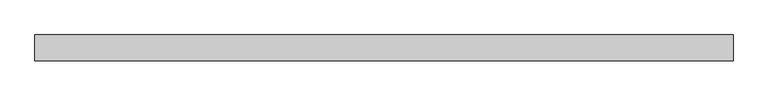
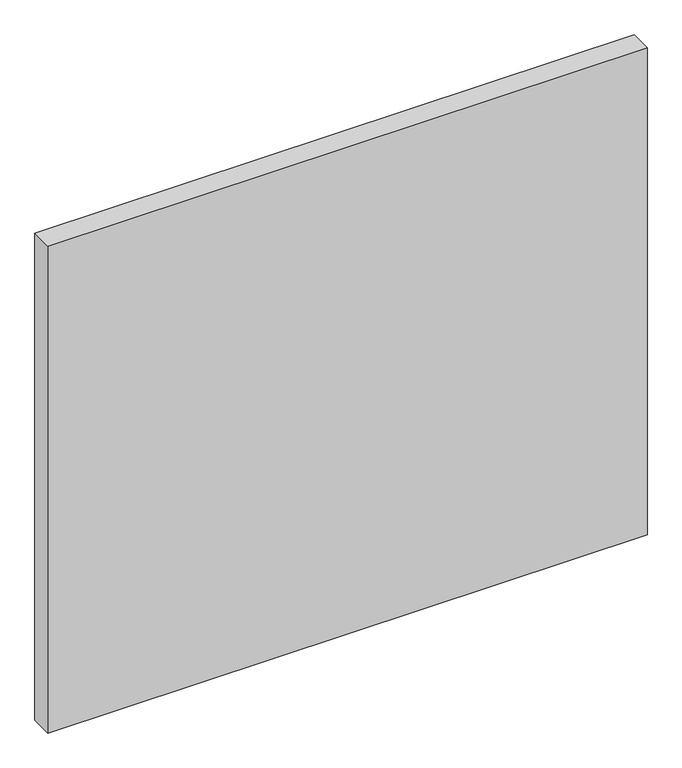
"""IFC4 building model written with IfcOpenShell, lengths in millimetres: plate geometry, Panneau système : Vitré."""

import ifcopenshell
import ifcopenshell.guid

model = None  # the IFC model being written
_history = None  # IfcOwnerHistory: only IFC2X3 demands one
_inside = {}  # id of a spatial element -> (the spatial element, [elements in it])
_under = {}  # id of a project, library or spatial element -> (it, [spatial elements below it])
_declared = {}  # id of a project -> (the project, [libraries it declares])
_typed = {}  # id of a type object -> (the type object, [elements of that type])
_made_of = {}  # id of a material, layer set ... -> (it, [elements and type objects made of it])


def new_model(schema):
    """Start an empty IFC model of exactly this schema.

    Asked for "IFC4X3", IfcOpenShell would pick the latest addendum, in which some entities
    have other attributes; the version numbers below select the first issue.
    IFC2X3 requires an IfcOwnerHistory on every rooted entity: one is made here for all.
    """
    global model, _history
    if schema == "IFC4X3":
        model = ifcopenshell.file(schema_version=(4, 3, 0, 0))
    else:
        model = ifcopenshell.file(schema=schema)
    _inside.clear()
    _under.clear()
    _declared.clear()
    _typed.clear()
    _made_of.clear()
    _history = None
    if model.schema == "IFC2X3":
        org = make("IfcOrganization", Name="unknown")
        user = make(
            "IfcPersonAndOrganization",
            ThePerson=make("IfcPerson", FamilyName="unknown"),
            TheOrganization=org,
        )
        app = make(
            "IfcApplication",
            ApplicationDeveloper=org,
            Version="unknown",
            ApplicationFullName="unknown",
            ApplicationIdentifier="unknown",
        )
        _history = make(
            "IfcOwnerHistory",
            OwningUser=user,
            OwningApplication=app,
            ChangeAction="ADDED",
            CreationDate=0,
        )
    return model


def make(cls, **values):
    """One entity of the class cls with the attributes given. An attribute that is None is left unset."""
    return model.create_entity(
        cls, **{name: value for name, value in values.items() if value is not None}
    )


def rooted(cls, **values):
    """An entity with a GlobalId (a new one), such as an element, a storey or a relation."""
    return make(cls, GlobalId=ifcopenshell.guid.new(), OwnerHistory=_history, **values)


def si_unit(unit_type, name, prefix=None):
    """IfcSIUnit, for example si_unit("LENGTHUNIT", "METRE", prefix="MILLI")."""
    return make("IfcSIUnit", UnitType=unit_type, Prefix=prefix, Name=name)


def assignment(units):
    """IfcUnitAssignment: the units of a project."""
    return None if units is None else make("IfcUnitAssignment", Units=units)


def point(xyz):
    """IfcCartesianPoint."""
    return None if xyz is None else make("IfcCartesianPoint", Coordinates=xyz)


def direction(xyz):
    """IfcDirection."""
    return None if xyz is None else make("IfcDirection", DirectionRatios=xyz)


def frame(location, z_axis=None, x_axis=None):
    """IfcAxis2Placement3D, a coordinate frame: its origin and axes. An axis left out is left unset."""
    return make(
        "IfcAxis2Placement3D",
        Location=point(location),
        Axis=direction(z_axis),
        RefDirection=direction(x_axis),
    )


def origin():
    """The frame at (0, 0, 0) with its axes left unset."""
    return frame((0.0, 0.0, 0.0))


def origin_with_axes():
    """The frame at (0, 0, 0) with the z axis (0, 0, 1) and the x axis (1, 0, 0) written out."""
    return frame((0.0, 0.0, 0.0), z_axis=(0.0, 0.0, 1.0), x_axis=(1.0, 0.0, 0.0))


def place(relative_to, where):
    """IfcLocalPlacement: puts the frame where relative to a parent placement (None: the world)."""
    return make(
        "IfcLocalPlacement", PlacementRelTo=relative_to, RelativePlacement=where
    )


def context(
    kind, dimensions, precision=None, world=None, true_north=None, identifier=None
):
    """IfcGeometricRepresentationContext, for example the 3D "Model" context."""
    return make(
        "IfcGeometricRepresentationContext",
        ContextIdentifier=identifier,
        ContextType=kind,
        CoordinateSpaceDimension=dimensions,
        Precision=precision,
        WorldCoordinateSystem=world,
        TrueNorth=true_north,
    )


def project(units=None, contexts=None):
    """IfcProject with its units and contexts."""
    return rooted(
        "IfcProject",
        Name="project",
        RepresentationContexts=contexts,
        UnitsInContext=assignment(units),
    )


def spatial(cls, under=None, at=None, **own):
    """A site, building, storey or space (cls), placed at a placement, below another one or the project."""
    s = rooted(cls, ObjectPlacement=at, **own)
    if under is not None:
        _under.setdefault(under.id(), (under, []))[1].append(s)
    return s


def polyline(points):
    """IfcPolyline through the points."""
    return make("IfcPolyline", Points=[point(p) for p in points])


def outline(outer, holes=None, kind="AREA"):
    """IfcArbitraryClosedProfileDef: a profile drawn as a closed curve; with holes, ...WithVoids."""
    if holes is None:
        return make("IfcArbitraryClosedProfileDef", ProfileType=kind, OuterCurve=outer)
    return make(
        "IfcArbitraryProfileDefWithVoids",
        ProfileType=kind,
        OuterCurve=outer,
        InnerCurves=holes,
    )


def extrude(swept, where, along, depth):
    """IfcExtrudedAreaSolid: the profile swept, set in the frame where, extruded along a direction by depth."""
    return make(
        "IfcExtrudedAreaSolid",
        SweptArea=swept,
        Position=where,
        ExtrudedDirection=direction(along),
        Depth=depth,
    )


def shape(context_of_items, identifier, shape_type, items):
    """IfcShapeRepresentation: the items that make up one representation, for example the "Body"."""
    return make(
        "IfcShapeRepresentation",
        ContextOfItems=context_of_items,
        RepresentationIdentifier=identifier,
        RepresentationType=shape_type,
        Items=items,
    )


def source(mapping_origin, context_of_items, identifier, shape_type, items):
    """IfcRepresentationMap: a shape defined once, which mapped items show again and again."""
    return make(
        "IfcRepresentationMap",
        MappingOrigin=mapping_origin,
        MappedRepresentation=shape(context_of_items, identifier, shape_type, items),
    )


def transform(
    local_origin,
    x_axis=None,
    y_axis=None,
    z_axis=None,
    scale=None,
    scale2=None,
    scale3=None,
    uniform=True,
):
    """IfcCartesianTransformationOperator3D, or its non-uniform kind. x_axis, y_axis, z_axis: its Axis1, 2, 3."""
    if uniform:
        return make(
            "IfcCartesianTransformationOperator3D",
            Axis1=direction(x_axis),
            Axis2=direction(y_axis),
            LocalOrigin=point(local_origin),
            Scale=scale,
            Axis3=direction(z_axis),
        )
    return make(
        "IfcCartesianTransformationOperator3DnonUniform",
        Axis1=direction(x_axis),
        Axis2=direction(y_axis),
        LocalOrigin=point(local_origin),
        Scale=scale,
        Axis3=direction(z_axis),
        Scale2=scale2,
        Scale3=scale3,
    )


def mapped(mapping_source, mapping_target):
    """IfcMappedItem: shows the shape of a source again, moved by a transform."""
    return make(
        "IfcMappedItem", MappingSource=mapping_source, MappingTarget=mapping_target
    )


def made_of(thing, what):
    """Note that an element or type object is made of a material, layer set ...; save() writes the relation."""
    if what is not None:
        _made_of.setdefault(what.id(), (what, []))[1].append(thing)
    return thing


def element(
    cls,
    number,
    at=None,
    inside=None,
    cuts=None,
    type_object=None,
    material=None,
    context=None,
    identifier="Body",
    shape_type=None,
    held_by="IfcProductDefinitionShape",
    body=None,
    shapes=None,
    **own,
):
    """One element of the class cls, such as IfcWall. Its Tag is "e" and its number.

    at: its placement. inside: the storey or other place that contains it. cuts: it is an
    opening in that element (IfcRelVoidsElement). A single representation is given by context,
    identifier, shape_type and body (its items); several are given by shapes. held_by: the class
    of the entity that holds the representations. save() writes the other relations.
    """
    e = rooted(cls, Tag="e%d" % number, ObjectPlacement=at, **own)
    if body is not None:
        shapes = [shape(context, identifier, shape_type, body)]
    if shapes is not None:
        e.Representation = make(held_by, Representations=shapes)
    if inside is not None:
        _inside.setdefault(inside.id(), (inside, []))[1].append(e)
    if cuts is not None:
        rooted(
            "IfcRelVoidsElement", RelatingBuildingElement=cuts, RelatedOpeningElement=e
        )
    if type_object is not None:
        _typed.setdefault(type_object.id(), (type_object, []))[1].append(e)
    return made_of(e, material)


def aggregate(whole, parts):
    """IfcRelAggregates: a whole, such as a stair, and the parts it consists of."""
    return rooted("IfcRelAggregates", RelatingObject=whole, RelatedObjects=parts)


def save(model, path):
    """Write the relations noted so far, then the file.

    IfcRelAggregates (storeys below a building ...), IfcRelContainedInSpatialStructure (elements
    in a storey), IfcRelDefinesByType, IfcRelAssociatesMaterial and IfcRelDeclares: one each for
    every whole, place, type object, material and project.
    """
    for whole, parts in _under.values():
        aggregate(whole, parts)
    for where, things in _inside.values():
        rooted(
            "IfcRelContainedInSpatialStructure",
            RelatedElements=things,
            RelatingStructure=where,
        )
    for kind, things in _typed.values():
        rooted("IfcRelDefinesByType", RelatedObjects=things, RelatingType=kind)
    for what, things in _made_of.values():
        rooted("IfcRelAssociatesMaterial", RelatedObjects=things, RelatingMaterial=what)
    for by, libraries in _declared.values():
        rooted("IfcRelDeclares", RelatingContext=by, RelatedDefinitions=libraries)
    model.write(path)


def plate_5824cc35(model_context):
    return source(origin(), model_context, "Body", "SweptSolid", [
        extrude(outline(polyline([(544.1849144, -20.0), (-544.1849144, -20.0), (-544.1849144, 20.0), (544.1849144, 20.0), (544.1849144, -20.0)])), origin_with_axes(), (0.0, 0.0, 1.0), 935.0),
    ])


if __name__ == "__main__":
    model = new_model("IFC4")
    model_context = context("Model", 3, world=origin())
    ifc_project = project(units=[si_unit("LENGTHUNIT", "METRE", prefix="MILLI")], contexts=[model_context])
    site = spatial("IfcSite", under=ifc_project)
    building = spatial("IfcBuilding", under=site)
    placement = place(None, origin())
    plate_shape = plate_5824cc35(model_context)
    element("IfcPlate", 1, ObjectType="Panneau système : Vitré", at=placement, inside=building, context=model_context, shape_type="MappedRepresentation", body=[
        mapped(plate_shape, transform((0.0, 0.0, 0.0), x_axis=(1.0, 0.0, 0.0), y_axis=(0.0, 1.0, 0.0), z_axis=(0.0, 0.0, 1.0))),
    ])
    save(model, "model.ifc")
